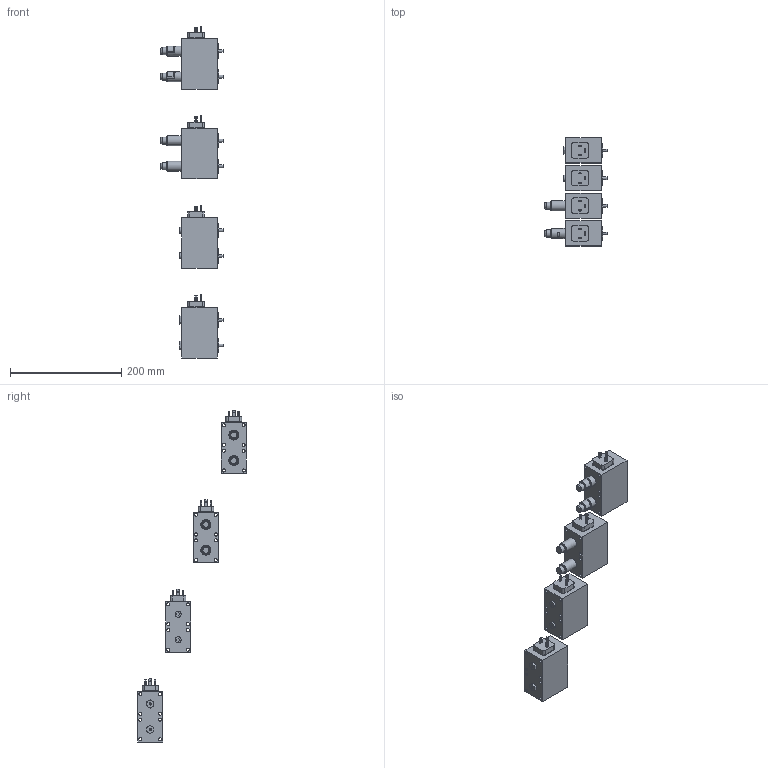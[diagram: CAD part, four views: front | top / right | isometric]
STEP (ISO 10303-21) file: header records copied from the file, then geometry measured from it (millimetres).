
FILE_DESCRIPTION(('Bauteilbeschreibung','HiCAD-Model','HiCAD-STEP-TRANSLATION','Bauteilbeschreibung'),'2;1');
FILE_NAME('K:/STEP_DXF/SIS45DV-M40.STP','2006-05-12T13:15:53+00:00',('Konstrukteur'),('Konstrukteur Firma GmbH'),'HiCAD3 V1210 STEP 1.6.2005','HiCAD3 V1210','confidential');
FILE_SCHEMA(('AUTOMOTIVE_DESIGN { 1 2 10303 214 0 1 1 1 }'));
Length unit declared in the file: millimetre
Products named in the file (33): SIS45DV_M40; SIS45DV_M40_H19; ACB85A3B; A040EC12; DAB12417; DAB124170; DICHTUNG; A6C5878A; A6C5878A0; SIS45DV_M40_H1; BB6B585A; A040EC120; DAB124171; DAB124172; DICHTUNG0; A270342B; A270342B0; SIS45DV_M40_HB0; B831AC79; A040EC121; DAB124173; DAB124174; DICHTUNG1; F134825D; F134825D0; SIS45DV_M40_HB6; F95D8754; A040EC122; DAB124175; DAB124176; DICHTUNG2; CF9A8A47; CF9A8A470
Assembly tree (32 placements, depth 5):
  SIS45DV_M40
    SIS45DV_M40_H19
      ACB85A3B
        A040EC12
        DAB12417
        DAB124170
          DICHTUNG
        A6C5878A
        A6C5878A0
    SIS45DV_M40_H1
      BB6B585A
        A040EC120
        DAB124171
        DAB124172
          DICHTUNG0
        A270342B
        A270342B0
    SIS45DV_M40_HB0
      B831AC79
        A040EC121
        DAB124173
        DAB124174
          DICHTUNG1
        F134825D
        F134825D0
    SIS45DV_M40_HB6
      F95D8754
        A040EC122
        DAB124175
        DAB124176
          DICHTUNG2
        CF9A8A47
        CF9A8A470
Bounding box: 111.5 x 195 x 596.5 mm (x, y, z)
Volume: 1074360.2 mm3; surface area: 179225 mm2
Topology: 32 solids, 32 shells, 574 faces, 1354 edges, 918 vertices
Faces by surface type: plane 306, cylinder 202, cone 52, torus 14
Full cylindrical faces by diameter (mm): 1.5 x12, 2.5 x2, 3 x12, 4.2 x2, 4.9 x8, 5.5 x32, 6 x2, 6.4 x2, 6.5 x8, 6.8 x4, 8 x16, 9.8 x8, 11 x2, 13 x4, 15 x4, 18 x4, 26 x8
Entity records: 27326 total; most frequent: CARTESIAN_POINT 4016, DIRECTION 2758, ORIENTED_EDGE 2180, COLOUR_RGB 1684, PRESENTATION_STYLE_ASSIGNMENT 1684, OVER_RIDING_STYLED_ITEM 1664, AXIS2_PLACEMENT_3D 1094, CURVE_STYLE 1090
